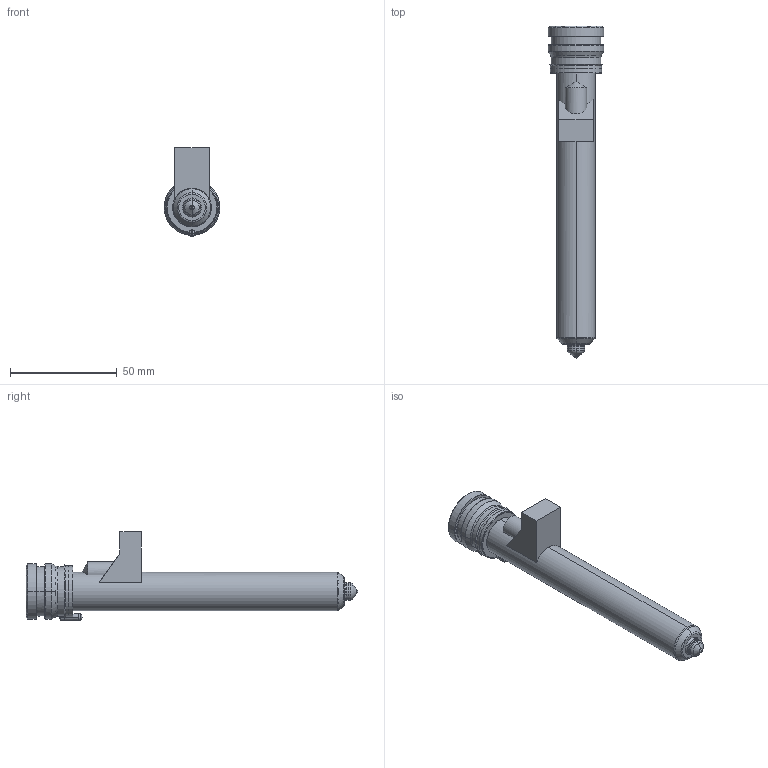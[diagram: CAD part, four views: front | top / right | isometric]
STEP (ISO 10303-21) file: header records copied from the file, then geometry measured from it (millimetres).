
FILE_DESCRIPTION((''),'2;1');
FILE_NAME('MPN-08-24-TX8-136-M','2026-02-05T13:26:28',('UPTIO'),('Thermoplay S.p.A.'),'CREO PARAMETRIC BY PTC INC, 2023494','CREO PARAMETRIC BY PTC INC, 2023494','');
FILE_SCHEMA(('CONFIG_CONTROL_DESIGN','SHAPE_APPEARANCE_LAYERS_GROUPS'));
Length unit declared in the file: millimetre
Products named in the file (1): MPN-08-24-TX8-136-M
Bounding box: 26 x 155.5 x 41.5 mm (x, y, z)
Volume: 29670.5 mm3; surface area: 39330.8 mm2
Topology: 2 solids, 3 shells, 532 faces, 1392 edges, 855 vertices
Faces by surface type: cylinder 174, plane 144, bspline 77, torus 62, cone 58, sphere 11, extrusion 6
Entity records: 28038 total; most frequent: CARTESIAN_POINT 12414, ORIENTED_EDGE 2762, DIRECTION 2491, EDGE_CURVE 1381, AXIS2_PLACEMENT_3D 974, VERTEX_POINT 855, EDGE_LOOP 562, VECTOR 543
